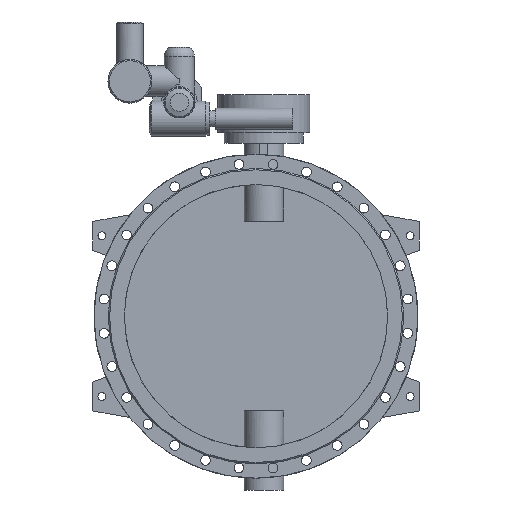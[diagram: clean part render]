
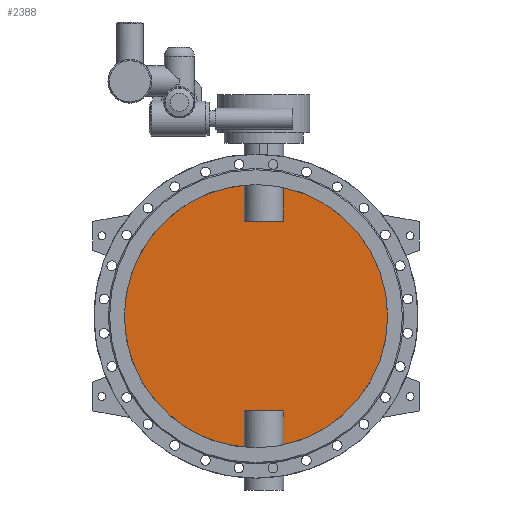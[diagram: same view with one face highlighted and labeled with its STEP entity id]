
A CAD part, front view. The second image highlights one B-rep face of the part: STEP entity #2388.
In plain terms, the highlighted planar face has unit normal (0, -1, 0).
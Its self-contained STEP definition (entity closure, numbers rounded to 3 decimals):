
#2388=ADVANCED_FACE('',(#4855),#4857,.F.);
#4855=FACE_BOUND('',#4856,.T.);
#4856=EDGE_LOOP('',(#5895,#5896,#5897,#5898,#5899,#5900,#5901,#5902));
#4857=PLANE('',#4858);
#4858=AXIS2_PLACEMENT_3D('',#4859,#4860,#4861);
#4859=CARTESIAN_POINT('',(0.,-5.,0.));
#4860=DIRECTION('',(0.,1.,0.));
#4861=DIRECTION('',(1.,0.,0.));
#5895=ORIENTED_EDGE('',*,*,#6416,.T.);
#5896=ORIENTED_EDGE('',*,*,#6421,.T.);
#5897=ORIENTED_EDGE('',*,*,#6422,.T.);
#5898=ORIENTED_EDGE('',*,*,#6423,.T.);
#5899=ORIENTED_EDGE('',*,*,#6418,.T.);
#5900=ORIENTED_EDGE('',*,*,#6424,.T.);
#5901=ORIENTED_EDGE('',*,*,#6425,.T.);
#5902=ORIENTED_EDGE('',*,*,#6426,.T.);
#6416=EDGE_CURVE('',#7341,#7342,#7343,.F.);
#6418=EDGE_CURVE('',#7346,#7344,#7347,.F.);
#6421=EDGE_CURVE('',#7342,#7351,#7352,.T.);
#6422=EDGE_CURVE('',#7351,#7353,#7354,.F.);
#6423=EDGE_CURVE('',#7353,#7346,#7355,.F.);
#6424=EDGE_CURVE('',#7344,#7356,#7357,.F.);
#6425=EDGE_CURVE('',#7356,#7358,#7359,.F.);
#6426=EDGE_CURVE('',#7358,#7341,#7360,.T.);
#7341=VERTEX_POINT('',#11812);
#7342=VERTEX_POINT('',#11813);
#7343=CIRCLE('',#11814,500.);
#7344=VERTEX_POINT('',#11818);
#7346=VERTEX_POINT('',#11916);
#7347=CIRCLE('',#11917,500.);
#7351=VERTEX_POINT('',#12022);
#7352=LINE('',#12023,#12024);
#7353=VERTEX_POINT('',#12026);
#7354=LINE('',#12027,#12028);
#7355=LINE('',#12030,#12031);
#7356=VERTEX_POINT('',#12033);
#7357=LINE('',#12034,#12035);
#7358=VERTEX_POINT('',#12037);
#7359=LINE('',#12038,#12039);
#7360=LINE('',#12041,#12042);
#11812=CARTESIAN_POINT('',(104.833,-5.,-488.887));
#11813=CARTESIAN_POINT('',(104.833,-5.,488.887));
#11814=AXIS2_PLACEMENT_3D('',#11815,#11816,#11817);
#11815=CARTESIAN_POINT('',(0.,-5.,0.));
#11816=DIRECTION('',(0.,1.,0.));
#11817=DIRECTION('',(0.21,0.,0.978));
#11818=CARTESIAN_POINT('',(-44.833,-5.,-497.986));
#11916=CARTESIAN_POINT('',(-44.833,-5.,497.986));
#11917=AXIS2_PLACEMENT_3D('',#11918,#11919,#11920);
#11918=CARTESIAN_POINT('',(0.,-5.,0.));
#11919=DIRECTION('',(0.,1.,0.));
#11920=DIRECTION('',(-0.09,0.,-0.996));
#12022=CARTESIAN_POINT('',(104.833,-5.,360.));
#12023=CARTESIAN_POINT('',(104.833,-5.,488.887));
#12024=VECTOR('',#12025,1.);
#12025=DIRECTION('',(0.,0.,-1.));
#12026=CARTESIAN_POINT('',(-44.833,-5.,360.));
#12027=CARTESIAN_POINT('',(-44.833,-5.,360.));
#12028=VECTOR('',#12029,1.);
#12029=DIRECTION('',(1.,0.,0.));
#12030=CARTESIAN_POINT('',(-44.833,-5.,497.986));
#12031=VECTOR('',#12032,1.);
#12032=DIRECTION('',(0.,0.,-1.));
#12033=CARTESIAN_POINT('',(-44.833,-5.,-360.));
#12034=CARTESIAN_POINT('',(-44.833,-5.,-360.));
#12035=VECTOR('',#12036,1.);
#12036=DIRECTION('',(0.,0.,-1.));
#12037=CARTESIAN_POINT('',(104.833,-5.,-360.));
#12038=CARTESIAN_POINT('',(104.833,-5.,-360.));
#12039=VECTOR('',#12040,1.);
#12040=DIRECTION('',(-1.,0.,0.));
#12041=CARTESIAN_POINT('',(104.833,-5.,-360.));
#12042=VECTOR('',#12043,1.);
#12043=DIRECTION('',(0.,0.,-1.));
